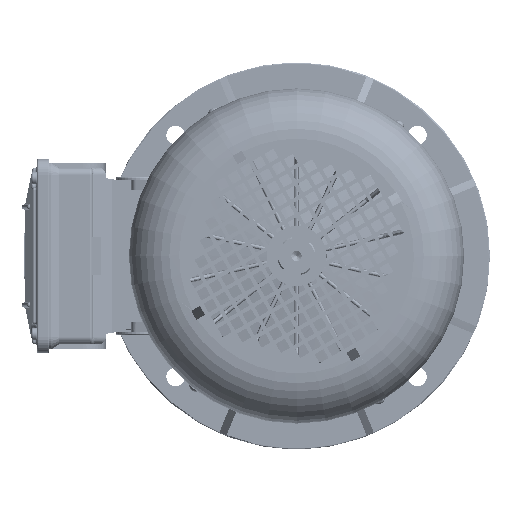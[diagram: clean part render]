
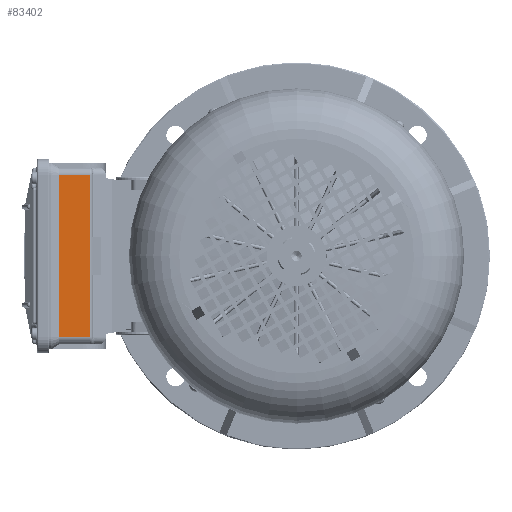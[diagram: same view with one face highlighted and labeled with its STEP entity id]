
A CAD part, left-side view. The second image highlights one B-rep face of the part: STEP entity #83402.
In plain terms, the highlighted planar face has unit normal (-1, 0, 0) as drawn and (1, 0, 0) by its records, which use the part's own axes.
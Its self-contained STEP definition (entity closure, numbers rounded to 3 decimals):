
#573 = PLANE ( 'NONE',  #12505 ) ;
#5460 = DIRECTION ( 'NONE',  ( 0., 0., -1. ) ) ;
#12505 = AXIS2_PLACEMENT_3D ( 'NONE', #70508, #140730, #14693 ) ;
#14693 = DIRECTION ( 'NONE',  ( 0., 0., 1. ) ) ;
#25984 = CARTESIAN_POINT ( 'NONE',  ( 92.5, -35.5, 62.5 ) ) ;
#37721 = VECTOR ( 'NONE', #5460, 1000. ) ;
#41157 = CARTESIAN_POINT ( 'NONE',  ( 92.5, -11.7, -62.5 ) ) ;
#44127 = ORIENTED_EDGE ( 'NONE', *, *, #165286, .T. ) ;
#48176 = VECTOR ( 'NONE', #59286, 1000. ) ;
#54585 = EDGE_CURVE ( 'NONE', #69655, #63601, #79345, .T. ) ;
#56809 = DIRECTION ( 'NONE',  ( 0., 1., 0. ) ) ;
#59286 = DIRECTION ( 'NONE',  ( 0., 1., 0. ) ) ;
#59634 = LINE ( 'NONE', #129807, #130055 ) ;
#63601 = VERTEX_POINT ( 'NONE', #167115 ) ;
#69655 = VERTEX_POINT ( 'NONE', #25984 ) ;
#70508 = CARTESIAN_POINT ( 'NONE',  ( 92.5, -282.704, -62.5 ) ) ;
#70686 = EDGE_CURVE ( 'NONE', #69655, #78173, #82289, .T. ) ;
#74186 = CARTESIAN_POINT ( 'NONE',  ( 92.5, -35.5, -62.5 ) ) ;
#77254 = EDGE_LOOP ( 'NONE', ( #144946, #140549, #44127, #104631 ) ) ;
#78173 = VERTEX_POINT ( 'NONE', #94821 ) ;
#79345 = LINE ( 'NONE', #74186, #37721 ) ;
#82289 = LINE ( 'NONE', #141101, #152787 ) ;
#83402 = ADVANCED_FACE ( 'NONE', ( #112787 ), #573, .F. ) ;
#85481 = LINE ( 'NONE', #129406, #48176 ) ;
#94821 = CARTESIAN_POINT ( 'NONE',  ( 92.5, -11.7, 62.5 ) ) ;
#104631 = ORIENTED_EDGE ( 'NONE', *, *, #141557, .T. ) ;
#112787 = FACE_OUTER_BOUND ( 'NONE', #77254, .T. ) ;
#129406 = CARTESIAN_POINT ( 'NONE',  ( 92.5, -282.704, -62.5 ) ) ;
#129807 = CARTESIAN_POINT ( 'NONE',  ( 92.5, -11.7, -62.5 ) ) ;
#130055 = VECTOR ( 'NONE', #157505, 1000. ) ;
#140549 = ORIENTED_EDGE ( 'NONE', *, *, #54585, .T. ) ;
#140730 = DIRECTION ( 'NONE',  ( -1., 0., 0. ) ) ;
#141101 = CARTESIAN_POINT ( 'NONE',  ( 92.5, -282.704, 62.5 ) ) ;
#141557 = EDGE_CURVE ( 'NONE', #165975, #78173, #59634, .T. ) ;
#144946 = ORIENTED_EDGE ( 'NONE', *, *, #70686, .F. ) ;
#152787 = VECTOR ( 'NONE', #56809, 1000. ) ;
#157505 = DIRECTION ( 'NONE',  ( 0., 0., 1. ) ) ;
#165286 = EDGE_CURVE ( 'NONE', #63601, #165975, #85481, .T. ) ;
#165975 = VERTEX_POINT ( 'NONE', #41157 ) ;
#167115 = CARTESIAN_POINT ( 'NONE',  ( 92.5, -35.5, -62.5 ) ) ;
